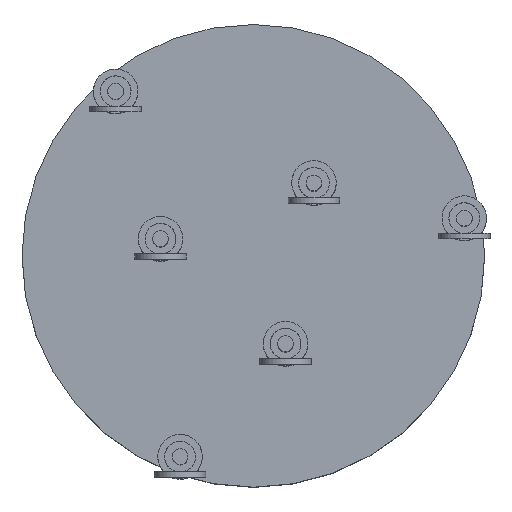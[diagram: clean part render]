
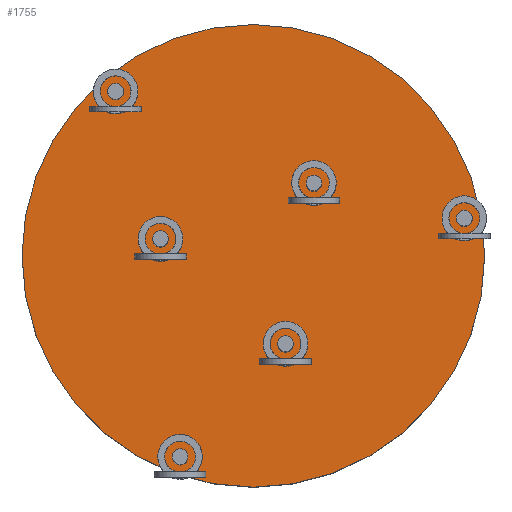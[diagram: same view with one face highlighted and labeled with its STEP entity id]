
A CAD part, top view. The second image highlights one B-rep face of the part: STEP entity #1755.
In plain terms, the highlighted planar face has unit normal (0, 0, 1).
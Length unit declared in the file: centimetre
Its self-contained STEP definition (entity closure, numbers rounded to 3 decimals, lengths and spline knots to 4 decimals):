
#244=FACE_BOUND('',#497,.T.);
#245=FACE_BOUND('',#498,.T.);
#246=FACE_BOUND('',#499,.T.);
#247=FACE_BOUND('',#500,.T.);
#248=FACE_BOUND('',#501,.T.);
#249=FACE_BOUND('',#502,.T.);
#363=FACE_OUTER_BOUND('',#496,.T.);
#496=EDGE_LOOP('',(#1200));
#497=EDGE_LOOP('',(#1201));
#498=EDGE_LOOP('',(#1202));
#499=EDGE_LOOP('',(#1203));
#500=EDGE_LOOP('',(#1204));
#501=EDGE_LOOP('',(#1205));
#502=EDGE_LOOP('',(#1206));
#665=CIRCLE('',#1881,0.23);
#667=CIRCLE('',#1884,0.23);
#668=CIRCLE('',#1887,0.23);
#670=CIRCLE('',#1890,0.23);
#672=CIRCLE('',#1894,0.23);
#673=CIRCLE('',#1897,0.23);
#676=CIRCLE('',#1902,6.75);
#789=VERTEX_POINT('',#2742);
#791=VERTEX_POINT('',#2747);
#792=VERTEX_POINT('',#2751);
#794=VERTEX_POINT('',#2756);
#796=VERTEX_POINT('',#2762);
#797=VERTEX_POINT('',#2766);
#800=VERTEX_POINT('',#2774);
#949=EDGE_CURVE('',#789,#789,#665,.T.);
#951=EDGE_CURVE('',#791,#791,#667,.T.);
#952=EDGE_CURVE('',#792,#792,#668,.T.);
#954=EDGE_CURVE('',#794,#794,#670,.T.);
#956=EDGE_CURVE('',#796,#796,#672,.T.);
#957=EDGE_CURVE('',#797,#797,#673,.T.);
#960=EDGE_CURVE('',#800,#800,#676,.T.);
#1200=ORIENTED_EDGE('',*,*,#960,.T.);
#1201=ORIENTED_EDGE('',*,*,#949,.T.);
#1202=ORIENTED_EDGE('',*,*,#951,.T.);
#1203=ORIENTED_EDGE('',*,*,#952,.T.);
#1204=ORIENTED_EDGE('',*,*,#954,.T.);
#1205=ORIENTED_EDGE('',*,*,#956,.T.);
#1206=ORIENTED_EDGE('',*,*,#957,.T.);
#1649=PLANE('',#1903);
#1755=ADVANCED_FACE('',(#363,#244,#245,#246,#247,#248,#249),#1649,.T.);
#1881=AXIS2_PLACEMENT_3D('',#2743,#2139,#2140);
#1884=AXIS2_PLACEMENT_3D('',#2748,#2145,#2146);
#1887=AXIS2_PLACEMENT_3D('',#2752,#2151,#2152);
#1890=AXIS2_PLACEMENT_3D('',#2757,#2157,#2158);
#1894=AXIS2_PLACEMENT_3D('',#2763,#2165,#2166);
#1897=AXIS2_PLACEMENT_3D('',#2767,#2171,#2172);
#1902=AXIS2_PLACEMENT_3D('',#2775,#2181,#2182);
#1903=AXIS2_PLACEMENT_3D('',#2776,#2183,#2184);
#2139=DIRECTION('center_axis',(0.,0.,
-1.));
#2140=DIRECTION('ref_axis',(-1.,0.,0.));
#2145=DIRECTION('center_axis',(0.,0.,
-1.));
#2146=DIRECTION('ref_axis',(-1.,0.,0.));
#2151=DIRECTION('center_axis',(0.,0.,
-1.));
#2152=DIRECTION('ref_axis',(-1.,0.,0.));
#2157=DIRECTION('center_axis',(0.,0.,
-1.));
#2158=DIRECTION('ref_axis',(-1.,0.,0.));
#2165=DIRECTION('center_axis',(0.,0.,
-1.));
#2166=DIRECTION('ref_axis',(-1.,0.,0.));
#2171=DIRECTION('center_axis',(0.,0.,
-1.));
#2172=DIRECTION('ref_axis',(-1.,0.,0.));
#2181=DIRECTION('center_axis',(0.,0.,
1.));
#2182=DIRECTION('ref_axis',(-1.,0.,0.));
#2183=DIRECTION('center_axis',(0.,0.,
1.));
#2184=DIRECTION('ref_axis',(1.,0.,0.));
#2742=CARTESIAN_POINT('',(-55.659,0.8769,0.));
#2743=CARTESIAN_POINT('Origin',(-55.889,0.8769,0.));
#2747=CARTESIAN_POINT('',(-56.2296,7.2275,0.));
#2748=CARTESIAN_POINT('Origin',(-56.4596,7.2275,0.));
#2751=CARTESIAN_POINT('',(-57.5388,11.5378,0.));
#2752=CARTESIAN_POINT('Origin',(-57.7688,11.5378,0.));
#2756=CARTESIAN_POINT('',(-51.7537,8.8566,0.));
#2757=CARTESIAN_POINT('Origin',(-51.9837,8.8566,0.));
#2762=CARTESIAN_POINT('',(-52.5808,4.1658,0.));
#2763=CARTESIAN_POINT('Origin',(-52.8108,4.1658,0.));
#2766=CARTESIAN_POINT('',(-47.3663,7.8353,0.));
#2767=CARTESIAN_POINT('Origin',(-47.5963,7.8353,0.));
#2774=CARTESIAN_POINT('',(-47.0014,6.75,0.));
#2775=CARTESIAN_POINT('Origin',(-53.7514,6.75,0.));
#2776=CARTESIAN_POINT('Origin',(-53.7514,6.75,0.));
